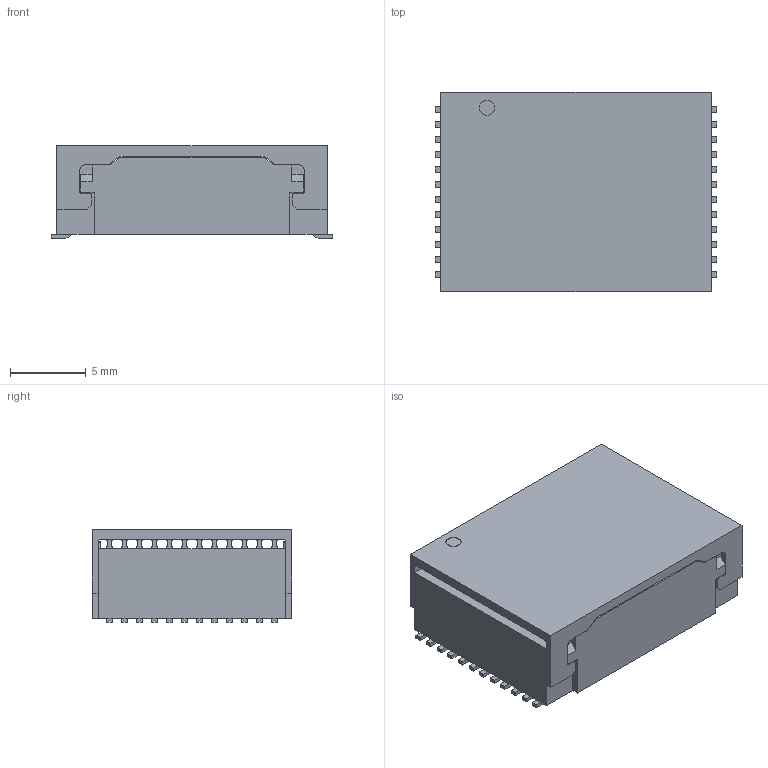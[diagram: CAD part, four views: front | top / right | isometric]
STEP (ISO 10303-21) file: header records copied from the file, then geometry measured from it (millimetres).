
FILE_DESCRIPTION (( 'STEP AP214' ), '1' );
FILE_NAME ('H5008FNL_3D.STEP', '2017-09-17T08:40:34', ( '' ), ( '' ), 'SwSTEP 2.0', 'SolidWorks 2015', '' );
FILE_SCHEMA (( 'AUTOMOTIVE_DESIGN' ));
Length unit declared in the file: millimetre
Products named in the file (1): H5008FNL_3D
Bounding box: 18.62 x 13.16 x 6.12 mm (x, y, z)
Volume: 1189.4 mm3; surface area: 1421.3 mm2
Topology: 2 solids, 2 shells, 774 faces, 2059 edges, 1338 vertices
Faces by surface type: plane 613, cylinder 157, bspline 4
Entity records: 32367 total; most frequent: CARTESIAN_POINT 4286, ORIENTED_EDGE 4118, DIRECTION 3949, EDGE_CURVE 2059, LINE 1691, VECTOR 1691, VERTEX_POINT 1338, AXIS2_PLACEMENT_3D 1129
